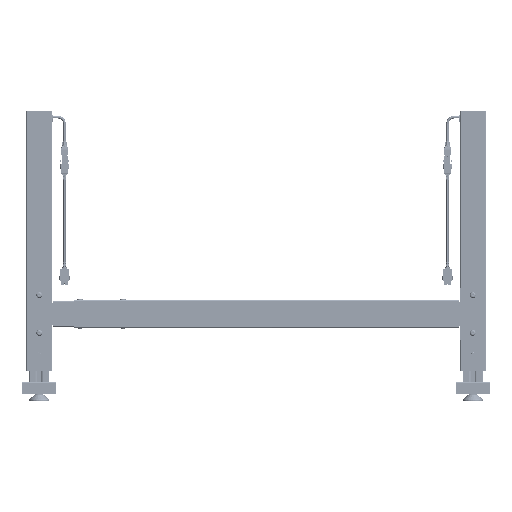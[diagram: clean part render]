
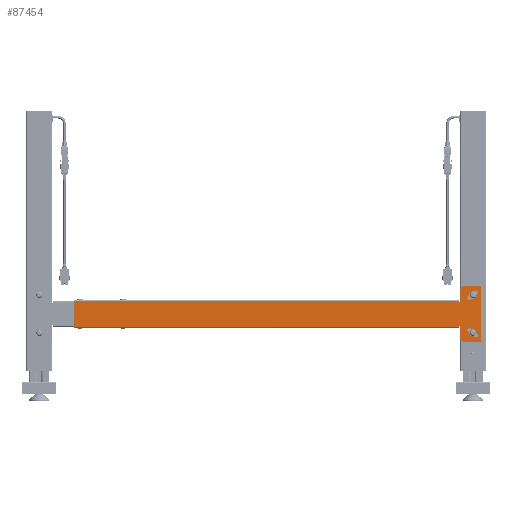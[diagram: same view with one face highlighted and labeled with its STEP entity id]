
A CAD part, left-side view. The second image highlights one B-rep face of the part: STEP entity #87454.
In plain terms, the highlighted planar face has unit normal (-1, 0, 0) as drawn and (0, 0, -1) by its records, which use the part's own axes.
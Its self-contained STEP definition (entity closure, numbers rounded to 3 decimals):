
#5256=CIRCLE('',#93906,4.75);
#5258=CIRCLE('',#93911,4.75);
#5266=CIRCLE('',#93928,4.75);
#5267=CIRCLE('',#93929,4.75);
#5268=CIRCLE('',#93930,10.);
#5269=CIRCLE('',#93931,10.);
#5270=CIRCLE('',#93932,1.75);
#5271=CIRCLE('',#93933,1.75);
#23909=ORIENTED_EDGE('',*,*,#34920,.F.);
#23910=ORIENTED_EDGE('',*,*,#34884,.F.);
#23911=ORIENTED_EDGE('',*,*,#34888,.F.);
#23912=ORIENTED_EDGE('',*,*,#34891,.F.);
#23913=ORIENTED_EDGE('',*,*,#34921,.F.);
#23914=ORIENTED_EDGE('',*,*,#34874,.F.);
#23915=ORIENTED_EDGE('',*,*,#34878,.F.);
#23916=ORIENTED_EDGE('',*,*,#34881,.F.);
#23917=ORIENTED_EDGE('',*,*,#34903,.F.);
#23918=ORIENTED_EDGE('',*,*,#34922,.T.);
#23919=ORIENTED_EDGE('',*,*,#34898,.F.);
#23920=ORIENTED_EDGE('',*,*,#34896,.F.);
#23921=ORIENTED_EDGE('',*,*,#34911,.F.);
#23922=ORIENTED_EDGE('',*,*,#34923,.T.);
#23923=ORIENTED_EDGE('',*,*,#34905,.F.);
#23924=ORIENTED_EDGE('',*,*,#34924,.F.);
#23925=ORIENTED_EDGE('',*,*,#34830,.T.);
#23926=ORIENTED_EDGE('',*,*,#34913,.F.);
#23927=ORIENTED_EDGE('',*,*,#34872,.T.);
#23928=ORIENTED_EDGE('',*,*,#34925,.F.);
#34830=EDGE_CURVE('',#41883,#41882,#48542,.T.);
#34872=EDGE_CURVE('',#41912,#41913,#48563,.T.);
#34874=EDGE_CURVE('',#41914,#41915,#48564,.T.);
#34878=EDGE_CURVE('',#41918,#41914,#5256,.T.);
#34881=EDGE_CURVE('',#41920,#41918,#48569,.T.);
#34884=EDGE_CURVE('',#41922,#41923,#48572,.T.);
#34888=EDGE_CURVE('',#41926,#41922,#5258,.T.);
#34891=EDGE_CURVE('',#41928,#41926,#48577,.T.);
#34896=EDGE_CURVE('',#41932,#41933,#48582,.T.);
#34898=EDGE_CURVE('',#41933,#41934,#48584,.T.);
#34903=EDGE_CURVE('',#41938,#41939,#48589,.T.);
#34905=EDGE_CURVE('',#41940,#41941,#48591,.T.);
#34911=EDGE_CURVE('',#41945,#41932,#48597,.T.);
#34913=EDGE_CURVE('',#41912,#41882,#48599,.T.);
#34920=EDGE_CURVE('',#41923,#41928,#5266,.T.);
#34921=EDGE_CURVE('',#41915,#41920,#5267,.T.);
#34922=EDGE_CURVE('',#41938,#41934,#5268,.T.);
#34923=EDGE_CURVE('',#41945,#41941,#5269,.T.);
#34924=EDGE_CURVE('',#41883,#41940,#5270,.T.);
#34925=EDGE_CURVE('',#41939,#41913,#5271,.T.);
#41882=VERTEX_POINT('',#137061);
#41883=VERTEX_POINT('',#137063);
#41912=VERTEX_POINT('',#137150);
#41913=VERTEX_POINT('',#137152);
#41914=VERTEX_POINT('',#137161);
#41915=VERTEX_POINT('',#137162);
#41918=VERTEX_POINT('',#137170);
#41920=VERTEX_POINT('',#137176);
#41922=VERTEX_POINT('',#137182);
#41923=VERTEX_POINT('',#137183);
#41926=VERTEX_POINT('',#137191);
#41928=VERTEX_POINT('',#137197);
#41932=VERTEX_POINT('',#137206);
#41933=VERTEX_POINT('',#137208);
#41934=VERTEX_POINT('',#137212);
#41938=VERTEX_POINT('',#137221);
#41939=VERTEX_POINT('',#137223);
#41940=VERTEX_POINT('',#137227);
#41941=VERTEX_POINT('',#137228);
#41945=VERTEX_POINT('',#137238);
#48542=LINE('',#137062,#55019);
#48563=LINE('',#137153,#55040);
#48564=LINE('',#137160,#55041);
#48569=LINE('',#137175,#55046);
#48572=LINE('',#137181,#55049);
#48577=LINE('',#137196,#55054);
#48582=LINE('',#137207,#55059);
#48584=LINE('',#137211,#55061);
#48589=LINE('',#137222,#55066);
#48591=LINE('',#137226,#55068);
#48597=LINE('',#137239,#55074);
#48599=LINE('',#137242,#55076);
#55019=VECTOR('',#112373,1000.);
#55040=VECTOR('',#112456,1000.);
#55041=VECTOR('',#112461,1000.);
#55046=VECTOR('',#112474,1000.);
#55049=VECTOR('',#112479,1000.);
#55054=VECTOR('',#112492,1000.);
#55059=VECTOR('',#112499,1000.);
#55061=VECTOR('',#112503,1000.);
#55066=VECTOR('',#112510,1000.);
#55068=VECTOR('',#112514,1000.);
#55074=VECTOR('',#112522,1000.);
#55076=VECTOR('',#112526,1000.);
#58990=EDGE_LOOP('',(#23909,#23910,#23911,#23912));
#58991=EDGE_LOOP('',(#23913,#23914,#23915,#23916));
#58992=EDGE_LOOP('',(#23917,#23918,#23919,#23920,#23921,#23922,#23923,#23924,
#23925,#23926,#23927,#23928));
#63058=FACE_BOUND('',#58990,.T.);
#63059=FACE_BOUND('',#58991,.T.);
#63060=FACE_BOUND('',#58992,.T.);
#65527=PLANE('',#93927);
#87454=ADVANCED_FACE('',(#63058,#63059,#63060),#65527,.T.);
#93906=AXIS2_PLACEMENT_3D('',#137169,#112467,#112468);
#93911=AXIS2_PLACEMENT_3D('',#137190,#112485,#112486);
#93927=AXIS2_PLACEMENT_3D('',#137250,#112541,#112542);
#93928=AXIS2_PLACEMENT_3D('',#137251,#112543,#112544);
#93929=AXIS2_PLACEMENT_3D('',#137252,#112545,#112546);
#93930=AXIS2_PLACEMENT_3D('',#137253,#112547,#112548);
#93931=AXIS2_PLACEMENT_3D('',#137254,#112549,#112550);
#93932=AXIS2_PLACEMENT_3D('',#137255,#112551,#112552);
#93933=AXIS2_PLACEMENT_3D('',#137256,#112553,#112554);
#112373=DIRECTION('',(1.,0.,0.));
#112456=DIRECTION('',(-1.,0.,0.));
#112461=DIRECTION('',(0.766,0.643,0.));
#112467=DIRECTION('',(0.,0.,-1.));
#112468=DIRECTION('',(-1.,0.,0.));
#112474=DIRECTION('',(-0.766,-0.643,0.));
#112479=DIRECTION('',(0.766,-0.643,0.));
#112485=DIRECTION('',(0.,0.,-1.));
#112486=DIRECTION('',(-1.,0.,0.));
#112492=DIRECTION('',(-0.766,0.643,0.));
#112499=DIRECTION('',(0.,-1.,0.));
#112503=DIRECTION('',(1.,0.,0.));
#112510=DIRECTION('',(0.,1.,0.));
#112514=DIRECTION('',(0.,1.,0.));
#112522=DIRECTION('',(-1.,0.,0.));
#112526=DIRECTION('',(0.,1.,0.));
#112541=DIRECTION('',(0.,0.,-1.));
#112542=DIRECTION('',(-1.,0.,0.));
#112543=DIRECTION('',(0.,0.,-1.));
#112544=DIRECTION('',(-1.,0.,0.));
#112545=DIRECTION('',(0.,0.,-1.));
#112546=DIRECTION('',(-1.,0.,0.));
#112547=DIRECTION('',(0.,0.,-1.));
#112548=DIRECTION('',(-1.,0.,0.));
#112549=DIRECTION('',(0.,0.,-1.));
#112550=DIRECTION('',(-1.,0.,0.));
#112551=DIRECTION('',(0.,0.,-1.));
#112552=DIRECTION('',(-1.,0.,0.));
#112553=DIRECTION('',(0.,0.,-1.));
#112554=DIRECTION('',(1.,0.,0.));
#137061=CARTESIAN_POINT('',(924.,29.9,-2.5));
#137062=CARTESIAN_POINT('',(26.,29.9,-2.5));
#137063=CARTESIAN_POINT('',(26.747,29.9,-2.5));
#137150=CARTESIAN_POINT('',(924.,-29.9,-2.5));
#137152=CARTESIAN_POINT('',(26.754,-29.9,-2.5));
#137153=CARTESIAN_POINT('',(924.,-29.9,-2.5));
#137160=CARTESIAN_POINT('',(16.196,-19.301,-2.5));
#137161=CARTESIAN_POINT('',(-16.053,-46.361,-2.5));
#137162=CARTESIAN_POINT('',(-0.349,-33.184,-2.5));
#137169=CARTESIAN_POINT('',(-13.,-50.,-2.5));
#137170=CARTESIAN_POINT('',(-9.947,-53.639,-2.5));
#137175=CARTESIAN_POINT('',(22.302,-26.579,-2.5));
#137176=CARTESIAN_POINT('',(5.757,-40.462,-2.5));
#137181=CARTESIAN_POINT('',(22.302,26.579,-2.5));
#137182=CARTESIAN_POINT('',(-9.947,53.639,-2.5));
#137183=CARTESIAN_POINT('',(5.757,40.462,-2.5));
#137190=CARTESIAN_POINT('',(-13.,50.,-2.5));
#137191=CARTESIAN_POINT('',(-16.053,46.361,-2.5));
#137196=CARTESIAN_POINT('',(16.196,19.301,-2.5));
#137197=CARTESIAN_POINT('',(-0.349,33.184,-2.5));
#137206=CARTESIAN_POINT('',(-24.,65.,-2.5));
#137207=CARTESIAN_POINT('',(-24.,65.,-2.5));
#137208=CARTESIAN_POINT('',(-24.,-65.,-2.5));
#137211=CARTESIAN_POINT('',(-24.,-65.,-2.5));
#137212=CARTESIAN_POINT('',(14.,-65.,-2.5));
#137221=CARTESIAN_POINT('',(24.,-55.,-2.5));
#137222=CARTESIAN_POINT('',(24.,65.,-2.5));
#137223=CARTESIAN_POINT('',(24.,-31.436,-2.5));
#137226=CARTESIAN_POINT('',(24.,65.,-2.5));
#137227=CARTESIAN_POINT('',(24.,31.436,-2.5));
#137228=CARTESIAN_POINT('',(24.,55.,-2.5));
#137238=CARTESIAN_POINT('',(14.,65.,-2.5));
#137239=CARTESIAN_POINT('',(-24.,65.,-2.5));
#137242=CARTESIAN_POINT('',(924.,30.,-2.5));
#137250=CARTESIAN_POINT('',(0.,0.,-2.5));
#137251=CARTESIAN_POINT('',(2.704,36.823,-2.5));
#137252=CARTESIAN_POINT('',(2.704,-36.823,-2.5));
#137253=CARTESIAN_POINT('',(14.,-55.,-2.5));
#137254=CARTESIAN_POINT('',(14.,55.,-2.5));
#137255=CARTESIAN_POINT('',(25.,30.,-2.5));
#137256=CARTESIAN_POINT('',(25.,-30.,-2.5));
